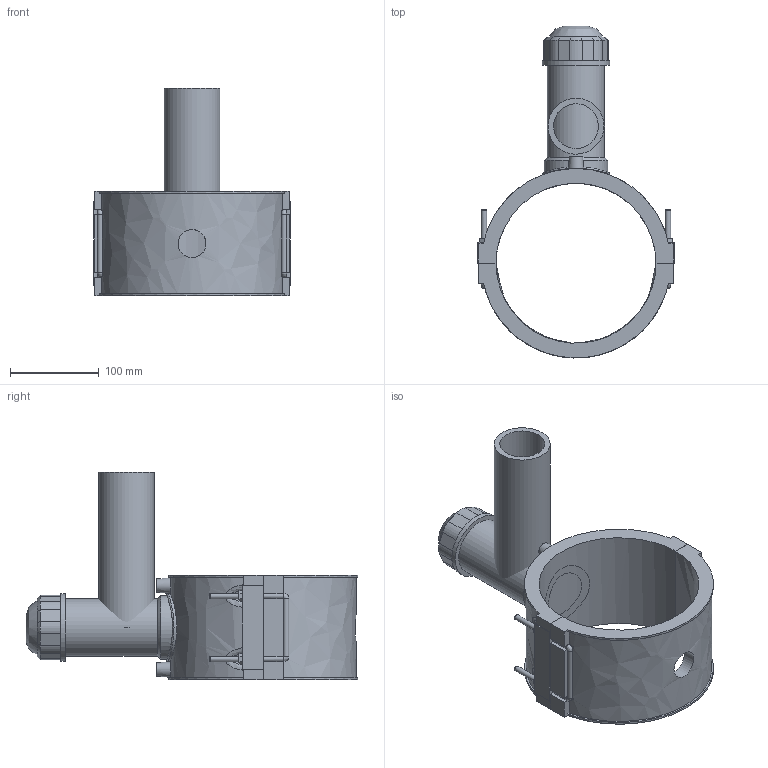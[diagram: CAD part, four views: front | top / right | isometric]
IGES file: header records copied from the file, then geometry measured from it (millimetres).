
Global section: file name: 4963P4180063; native system: Autodesk Inventor 2019; preprocessor: unknown; author: KIM; date: 20220317.113121; units: millimetre
Bounding box: 221 x 373.44 x 234 mm (x, y, z)
Volume: 1645455.3 mm3; surface area: 323346.6 mm2
Topology: 3 solids, 5 shells, 194 faces, 493 edges, 317 vertices
Faces by surface type: bspline 194
